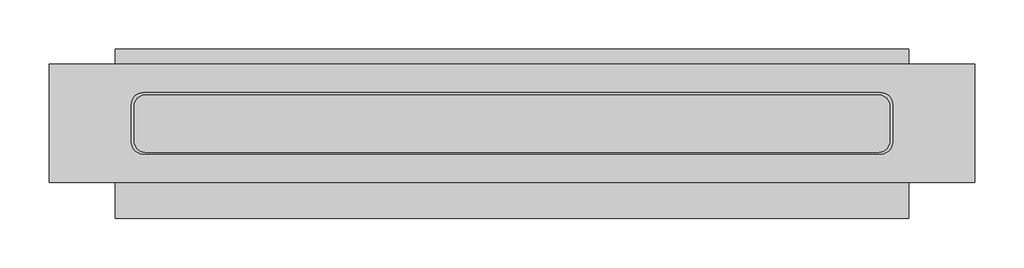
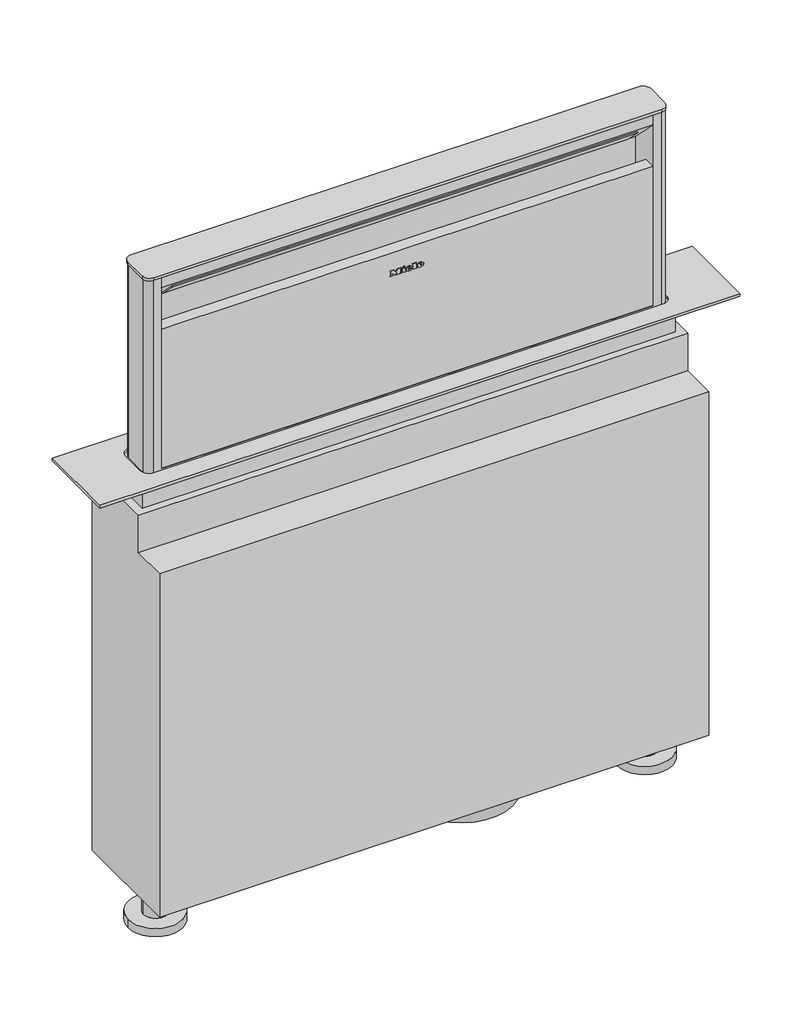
# Not in any storey: 1 proxy.
"""IFC4 building model written with IfcOpenShell, lengths in millimetres."""

import ifcopenshell
import ifcopenshell.guid

model = None  # the IFC model being written
_history = None  # IfcOwnerHistory: only IFC2X3 demands one
_inside = {}  # id of a spatial element -> (the spatial element, [elements in it])
_under = {}  # id of a project, library or spatial element -> (it, [spatial elements below it])
_declared = {}  # id of a project -> (the project, [libraries it declares])
_typed = {}  # id of a type object -> (the type object, [elements of that type])
_made_of = {}  # id of a material, layer set ... -> (it, [elements and type objects made of it])


def new_model(schema):
    """Start an empty IFC model of exactly this schema.

    Asked for "IFC4X3", IfcOpenShell would pick the latest addendum, in which some entities
    have other attributes; the version numbers below select the first issue.
    IFC2X3 requires an IfcOwnerHistory on every rooted entity: one is made here for all.
    """
    global model, _history
    if schema == "IFC4X3":
        model = ifcopenshell.file(schema_version=(4, 3, 0, 0))
    else:
        model = ifcopenshell.file(schema=schema)
    _inside.clear()
    _under.clear()
    _declared.clear()
    _typed.clear()
    _made_of.clear()
    _history = None
    if model.schema == "IFC2X3":
        org = make("IfcOrganization", Name="unknown")
        user = make(
            "IfcPersonAndOrganization",
            ThePerson=make("IfcPerson", FamilyName="unknown"),
            TheOrganization=org,
        )
        app = make(
            "IfcApplication",
            ApplicationDeveloper=org,
            Version="unknown",
            ApplicationFullName="unknown",
            ApplicationIdentifier="unknown",
        )
        _history = make(
            "IfcOwnerHistory",
            OwningUser=user,
            OwningApplication=app,
            ChangeAction="ADDED",
            CreationDate=0,
        )
    return model


def make(cls, **values):
    """One entity of the class cls with the attributes given. An attribute that is None is left unset."""
    return model.create_entity(
        cls, **{name: value for name, value in values.items() if value is not None}
    )


def rooted(cls, **values):
    """An entity with a GlobalId (a new one), such as an element, a storey or a relation."""
    return make(cls, GlobalId=ifcopenshell.guid.new(), OwnerHistory=_history, **values)


def si_unit(unit_type, name, prefix=None):
    """IfcSIUnit, for example si_unit("LENGTHUNIT", "METRE", prefix="MILLI")."""
    return make("IfcSIUnit", UnitType=unit_type, Prefix=prefix, Name=name)


def assignment(units):
    """IfcUnitAssignment: the units of a project."""
    return None if units is None else make("IfcUnitAssignment", Units=units)


def point(xyz):
    """IfcCartesianPoint."""
    return None if xyz is None else make("IfcCartesianPoint", Coordinates=xyz)


def direction(xyz):
    """IfcDirection."""
    return None if xyz is None else make("IfcDirection", DirectionRatios=xyz)


def frame(location, z_axis=None, x_axis=None):
    """IfcAxis2Placement3D, a coordinate frame: its origin and axes. An axis left out is left unset."""
    return make(
        "IfcAxis2Placement3D",
        Location=point(location),
        Axis=direction(z_axis),
        RefDirection=direction(x_axis),
    )


def frame_2d(location, x_axis=None):
    """IfcAxis2Placement2D, a coordinate frame in the plane: its origin and x axis."""
    return make(
        "IfcAxis2Placement2D", Location=point(location), RefDirection=direction(x_axis)
    )


def origin():
    """The frame at (0, 0, 0) with its axes left unset."""
    return frame((0.0, 0.0, 0.0))


def origin_with_axes():
    """The frame at (0, 0, 0) with the z axis (0, 0, 1) and the x axis (1, 0, 0) written out."""
    return frame((0.0, 0.0, 0.0), z_axis=(0.0, 0.0, 1.0), x_axis=(1.0, 0.0, 0.0))


def place(relative_to, where):
    """IfcLocalPlacement: puts the frame where relative to a parent placement (None: the world)."""
    return make(
        "IfcLocalPlacement", PlacementRelTo=relative_to, RelativePlacement=where
    )


def context(
    kind, dimensions, precision=None, world=None, true_north=None, identifier=None
):
    """IfcGeometricRepresentationContext, for example the 3D "Model" context."""
    return make(
        "IfcGeometricRepresentationContext",
        ContextIdentifier=identifier,
        ContextType=kind,
        CoordinateSpaceDimension=dimensions,
        Precision=precision,
        WorldCoordinateSystem=world,
        TrueNorth=true_north,
    )


def project(units=None, contexts=None):
    """IfcProject with its units and contexts."""
    return rooted(
        "IfcProject",
        Name="project",
        RepresentationContexts=contexts,
        UnitsInContext=assignment(units),
    )


def spatial(cls, under=None, at=None, **own):
    """A site, building, storey or space (cls), placed at a placement, below another one or the project."""
    s = rooted(cls, ObjectPlacement=at, **own)
    if under is not None:
        _under.setdefault(under.id(), (under, []))[1].append(s)
    return s


def polyline(points):
    """IfcPolyline through the points."""
    return make("IfcPolyline", Points=[point(p) for p in points])


def circle_curve(where, radius):
    """IfcCircle in the frame where."""
    return make("IfcCircle", Position=where, Radius=radius)


def ellipse_curve(where, semi_axis1, semi_axis2):
    """IfcEllipse in the frame where."""
    return make(
        "IfcEllipse", Position=where, SemiAxis1=semi_axis1, SemiAxis2=semi_axis2
    )


def trimmed(basis, trim1, trim2, sense, master):
    """IfcTrimmedCurve: the piece of a basis curve between two trims."""
    return make(
        "IfcTrimmedCurve",
        BasisCurve=basis,
        Trim1=trim1,
        Trim2=trim2,
        SenseAgreement=sense,
        MasterRepresentation=master,
    )


def segment(curve, same_sense, transition):
    """IfcCompositeCurveSegment."""
    return make(
        "IfcCompositeCurveSegment",
        Transition=transition,
        SameSense=same_sense,
        ParentCurve=curve,
    )


def composite_curve(segments, self_intersect=None):
    """IfcCompositeCurve: segments joined end to end."""
    return make("IfcCompositeCurve", Segments=segments, SelfIntersect=self_intersect)


def outline(outer, holes=None, kind="AREA"):
    """IfcArbitraryClosedProfileDef: a profile drawn as a closed curve; with holes, ...WithVoids."""
    if holes is None:
        return make("IfcArbitraryClosedProfileDef", ProfileType=kind, OuterCurve=outer)
    return make(
        "IfcArbitraryProfileDefWithVoids",
        ProfileType=kind,
        OuterCurve=outer,
        InnerCurves=holes,
    )


def extrude(swept, where, along, depth):
    """IfcExtrudedAreaSolid: the profile swept, set in the frame where, extruded along a direction by depth."""
    return make(
        "IfcExtrudedAreaSolid",
        SweptArea=swept,
        Position=where,
        ExtrudedDirection=direction(along),
        Depth=depth,
    )


def faces_of(points, faces, orient=None, outer=None):
    """IfcFace entities. A face is a list of loops; a loop is a list of indices into points, from 0.

    orient and outer hold one flag for each loop. By default every Orientation is true, the
    first loop of a face is its IfcFaceOuterBound and the others are IfcFaceBound.
    """
    made = []
    for i, loops in enumerate(faces):
        bounds = []
        for j, loop in enumerate(loops):
            is_outer = j == 0 if outer is None else outer[i][j]
            bounds.append(
                make(
                    "IfcFaceOuterBound" if is_outer else "IfcFaceBound",
                    Bound=make("IfcPolyLoop", Polygon=[points[k] for k in loop]),
                    Orientation=True if orient is None else orient[i][j],
                )
            )
        made.append(make("IfcFace", Bounds=bounds))
    return made


def faceted_brep(points, faces, orient=None, outer=None, voids=None):
    """IfcFacetedBrep: a solid bounded by flat faces; with voids (closed shells), ...WithVoids."""
    shared = [point(p) for p in points]
    hull = make("IfcClosedShell", CfsFaces=faces_of(shared, faces, orient, outer))
    if voids is None:
        return make("IfcFacetedBrep", Outer=hull)
    return make(
        "IfcFacetedBrepWithVoids",
        Outer=hull,
        Voids=[
            make(cls, CfsFaces=faces_of(shared, fs, o, b)) for cls, fs, o, b in voids
        ],
    )


def shape(context_of_items, identifier, shape_type, items):
    """IfcShapeRepresentation: the items that make up one representation, for example the "Body"."""
    return make(
        "IfcShapeRepresentation",
        ContextOfItems=context_of_items,
        RepresentationIdentifier=identifier,
        RepresentationType=shape_type,
        Items=items,
    )


def source(mapping_origin, context_of_items, identifier, shape_type, items):
    """IfcRepresentationMap: a shape defined once, which mapped items show again and again."""
    return make(
        "IfcRepresentationMap",
        MappingOrigin=mapping_origin,
        MappedRepresentation=shape(context_of_items, identifier, shape_type, items),
    )


def transform(
    local_origin,
    x_axis=None,
    y_axis=None,
    z_axis=None,
    scale=None,
    scale2=None,
    scale3=None,
    uniform=True,
):
    """IfcCartesianTransformationOperator3D, or its non-uniform kind. x_axis, y_axis, z_axis: its Axis1, 2, 3."""
    if uniform:
        return make(
            "IfcCartesianTransformationOperator3D",
            Axis1=direction(x_axis),
            Axis2=direction(y_axis),
            LocalOrigin=point(local_origin),
            Scale=scale,
            Axis3=direction(z_axis),
        )
    return make(
        "IfcCartesianTransformationOperator3DnonUniform",
        Axis1=direction(x_axis),
        Axis2=direction(y_axis),
        LocalOrigin=point(local_origin),
        Scale=scale,
        Axis3=direction(z_axis),
        Scale2=scale2,
        Scale3=scale3,
    )


def mapped(mapping_source, mapping_target):
    """IfcMappedItem: shows the shape of a source again, moved by a transform."""
    return make(
        "IfcMappedItem", MappingSource=mapping_source, MappingTarget=mapping_target
    )


def made_of(thing, what):
    """Note that an element or type object is made of a material, layer set ...; save() writes the relation."""
    if what is not None:
        _made_of.setdefault(what.id(), (what, []))[1].append(thing)
    return thing


def element(
    cls,
    number,
    at=None,
    inside=None,
    cuts=None,
    type_object=None,
    material=None,
    context=None,
    identifier="Body",
    shape_type=None,
    held_by="IfcProductDefinitionShape",
    body=None,
    shapes=None,
    **own,
):
    """One element of the class cls, such as IfcWall. Its Tag is "e" and its number.

    at: its placement. inside: the storey or other place that contains it. cuts: it is an
    opening in that element (IfcRelVoidsElement). A single representation is given by context,
    identifier, shape_type and body (its items); several are given by shapes. held_by: the class
    of the entity that holds the representations. save() writes the other relations.
    """
    e = rooted(cls, Tag="e%d" % number, ObjectPlacement=at, **own)
    if body is not None:
        shapes = [shape(context, identifier, shape_type, body)]
    if shapes is not None:
        e.Representation = make(held_by, Representations=shapes)
    if inside is not None:
        _inside.setdefault(inside.id(), (inside, []))[1].append(e)
    if cuts is not None:
        rooted(
            "IfcRelVoidsElement", RelatingBuildingElement=cuts, RelatedOpeningElement=e
        )
    if type_object is not None:
        _typed.setdefault(type_object.id(), (type_object, []))[1].append(e)
    return made_of(e, material)


def aggregate(whole, parts):
    """IfcRelAggregates: a whole, such as a stair, and the parts it consists of."""
    return rooted("IfcRelAggregates", RelatingObject=whole, RelatedObjects=parts)


def save(model, path):
    """Write the relations noted so far, then the file.

    IfcRelAggregates (storeys below a building ...), IfcRelContainedInSpatialStructure (elements
    in a storey), IfcRelDefinesByType, IfcRelAssociatesMaterial and IfcRelDeclares: one each for
    every whole, place, type object, material and project.
    """
    for whole, parts in _under.values():
        aggregate(whole, parts)
    for where, things in _inside.values():
        rooted(
            "IfcRelContainedInSpatialStructure",
            RelatedElements=things,
            RelatingStructure=where,
        )
    for kind, things in _typed.values():
        rooted("IfcRelDefinesByType", RelatedObjects=things, RelatingType=kind)
    for what, things in _made_of.values():
        rooted("IfcRelAssociatesMaterial", RelatedObjects=things, RelatingMaterial=what)
    for by, libraries in _declared.values():
        rooted("IfcRelDeclares", RelatingContext=by, RelatedDefinitions=libraries)
    model.write(path)


def plane_surface(at):
    """IfcPlane: the flat surface through the origin of the frame at, square to its z axis."""
    return make("IfcPlane", Position=at)


def cylinder_surface(at, radius):
    """IfcCylindricalSurface: all points at the distance radius from the z axis of the frame at."""
    return make("IfcCylindricalSurface", Position=at, Radius=radius)


def revolved_surface(curve, axis_point, axis_direction):
    """IfcSurfaceOfRevolution: the curve turned about the line through axis_point along axis_direction."""
    return make(
        "IfcSurfaceOfRevolution",
        SweptCurve=make("IfcArbitraryOpenProfileDef", ProfileType="CURVE", Curve=curve),
        AxisPosition=make("IfcAxis1Placement", Location=point(axis_point), Axis=direction(axis_direction)),
    )


def extruded_surface(curve, direction_of_extrusion, depth):
    """IfcSurfaceOfLinearExtrusion: the curve pushed along a direction by depth."""
    return make(
        "IfcSurfaceOfLinearExtrusion",
        SweptCurve=make("IfcArbitraryOpenProfileDef", ProfileType="CURVE", Curve=curve),
        ExtrudedDirection=direction(direction_of_extrusion),
        Depth=depth,
    )


def advanced_brep(points, edges, surfaces, faces):
    """IfcAdvancedBrep: a solid bounded by faces that lie on surfaces and meet in shared edges.

    An edge is (start, end): straight between two places in points (the first is 0);
    or (start, end, curve); or (start, end, curve, False) where it runs against its curve.
    A face is (place in surfaces, loops), or (place, loops, False) where it looks against
    its surface's normal. A loop lists edges by number (the first is 1), with a minus sign
    where the edge is run from its end to its start. The first loop is the outer one.
    """
    corners = [point(p) for p in points]
    vertices = [make("IfcVertexPoint", VertexGeometry=c) for c in corners]
    made = []
    for start, end, *more in edges:
        made.append(
            make(
                "IfcEdgeCurve",
                EdgeStart=vertices[start],
                EdgeEnd=vertices[end],
                EdgeGeometry=more[0] if more else make("IfcPolyline", Points=[corners[start], corners[end]]),
                SameSense=more[1] if len(more) > 1 else True,
            )
        )
    hull = []
    for where, loops, *sense in faces:
        bounds = []
        for j, loop in enumerate(loops):
            ring = [make("IfcOrientedEdge", EdgeElement=made[abs(k) - 1], Orientation=k > 0) for k in loop]
            bounds.append(
                make(
                    "IfcFaceOuterBound" if j == 0 else "IfcFaceBound",
                    Bound=make("IfcEdgeLoop", EdgeList=ring),
                    Orientation=True,
                )
            )
        hull.append(make("IfcAdvancedFace", Bounds=bounds, FaceSurface=surfaces[where], SameSense=sense[0] if sense else True))
    return make("IfcAdvancedBrep", Outer=make("IfcClosedShell", CfsFaces=hull))


def specialty_equipment_d9378c4a(model_context):
    return source(origin(), model_context, "Body", "SolidModel", [
        extrude(outline(polyline([(190.696, -25.0), (190.696, -24.032), (185.344, -24.032), (185.344, -25.0), (184.0, -25.0), (184.0, -21.48), (185.344, -21.48), (185.344, -22.44), (188.7471247, -22.44), (184.0, -18.864), (188.8152223, -15.272), (185.344, -15.272), (185.344, -16.256), (184.0, -16.256), (184.0, -9.872), (185.344, -9.872), (185.344, -10.888), (190.696, -10.888), (190.696, -9.872), (192.0, -9.872), (192.0, -14.744), (189.0, -17.08), (192.0, -19.424), (192.0, -25.0), (190.696, -25.0)])), frame((0.0, -104.0, 0.0), z_axis=(0.0, 1.0, 0.0), x_axis=(0.0, 0.0, 1.0)), (0.0, 0.0, 1.0), 1.0),
        extrude(outline(polyline([(190.696, 7.464), (190.696, 8.424), (185.344, 8.424), (185.344, 7.464), (184.0, 7.464), (184.0, 13.952), (185.344, 13.952), (185.344, 12.968), (192.0, 12.968), (192.0, 7.464), (190.696, 7.464)])), frame((0.0, -104.0, 0.0), z_axis=(0.0, 1.0, 0.0), x_axis=(0.0, 0.0, 1.0)), (0.0, 0.0, 1.0), 1.0),
        extrude(outline(polyline([(191.528, -7.08), (190.232, -6.472), (191.496, -3.76), (192.792, -4.36), (191.528, -7.08)])), frame((0.0, -104.0, 0.0), z_axis=(0.0, 1.0, 0.0), x_axis=(0.0, 0.0, 1.0)), (0.0, 0.0, 1.0), 1.0),
        extrude(outline(polyline([(190.056, -9.056), (188.624, -9.056), (188.624, -8.104), (185.344, -8.104), (185.344, -9.056), (184.0, -9.056), (184.0, -2.744), (185.344, -2.744), (185.344, -3.672), (190.056, -3.672), (190.056, -9.056)])), frame((0.0, -104.0, 0.0), z_axis=(0.0, 1.0, 0.0), x_axis=(0.0, 0.0, 1.0)), (0.0, 0.0, 1.0), 1.0),
        advanced_brep(
        [(1.664, -104.0, 185.896), (1.664, -104.0, 186.704), (7.016, -104.0, 186.704), (-2.296, -104.0, 186.704), (-0.096, -104.0, 184.0), (6.88, -104.0, 185.896), (4.464, -104.0, 185.896), (2.56, -104.0, 185.0), (1.664, -104.0, 187.728), (1.664, -104.0, 188.6), (3.032, -104.0, 188.6), (3.032, -104.0, 187.728), (1.664, -103.0, 185.896), (2.56, -103.0, 185.0), (4.464, -103.0, 185.896), (6.88, -103.0, 185.896), (-0.096, -103.0, 184.0), (-2.296, -103.0, 186.704), (7.016, -103.0, 186.704), (1.664, -103.0, 186.704), (1.664, -103.0, 187.728), (3.032, -103.0, 187.728), (3.032, -103.0, 188.6), (1.664, -103.0, 188.6)],
        [
            (0, 1),
            (1, 2),
            (2, 3, ellipse_curve(frame((2.36, -104.0, 186.704), z_axis=(0.0, -1.0, 0.0), x_axis=(-1.0, 0.0, 0.0)), 4.656, 3.848)),
            (3, 4, circle_curve(frame((0.8000436, -104.0, 186.976), z_axis=(0.0, -1.0, 0.0), x_axis=(0.0, 0.0, -1.0)), 3.1079688)),
            (4, 5, circle_curve(frame((2.2667936, -104.0, 189.088), z_axis=(0.0, -1.0, 0.0), x_axis=(0.0, 0.0, -1.0)), 5.6098607)),
            (5, 6),
            (6, 7, circle_curve(frame((2.9510588, -104.0, 186.64), z_axis=(0.0, 1.0, 0.0), x_axis=(0.0, 0.0, -1.0)), 1.6859795)),
            (7, 0, circle_curve(frame((2.56, -104.0, 185.896), z_axis=(0.0, 1.0, 0.0), x_axis=(0.0, 0.0, -1.0)), 0.896)),
            (8, 9),
            (9, 10, circle_curve(frame((2.348, -104.0, 188.6), z_axis=(0.0, 1.0, 0.0), x_axis=(0.0, 0.0, -1.0)), 0.684)),
            (10, 11),
            (11, 8),
            (12, 13, circle_curve(frame((2.56, -103.0, 185.896), z_axis=(0.0, -1.0, 0.0), x_axis=(0.0, 0.0, -1.0)), 0.896)),
            (13, 14, circle_curve(frame((2.9510588, -103.0, 186.64), z_axis=(0.0, -1.0, 0.0), x_axis=(0.0, 0.0, -1.0)), 1.6859795)),
            (14, 15),
            (15, 16, circle_curve(frame((2.2667936, -103.0, 189.088), z_axis=(0.0, 1.0, 0.0), x_axis=(0.0, 0.0, -1.0)), 5.6098607)),
            (16, 17, circle_curve(frame((0.8000436, -103.0, 186.976), z_axis=(0.0, 1.0, 0.0), x_axis=(0.0, 0.0, -1.0)), 3.1079688)),
            (17, 18, ellipse_curve(frame((2.36, -103.0, 186.704), z_axis=(0.0, 1.0, 0.0), x_axis=(-1.0, 0.0, 0.0)), 4.656, 3.848)),
            (18, 19),
            (19, 12),
            (20, 21),
            (21, 22),
            (22, 23, circle_curve(frame((2.348, -103.0, 188.6), z_axis=(0.0, -1.0, 0.0), x_axis=(0.0, 0.0, -1.0)), 0.684)),
            (23, 20),
            (0, 12),
            (19, 1),
            (18, 2),
            (5, 15),
            (14, 6),
            (17, 3),
            (13, 7),
            (16, 4),
            (8, 20),
            (23, 9),
            (22, 10),
            (21, 11),
        ],
        [
            plane_surface(frame((1.664, -104.0, 186.704), z_axis=(0.0, -1.0, 0.0), x_axis=(0.0, 0.0, 1.0))),
            plane_surface(frame((1.664, -103.0, 186.704), z_axis=(0.0, 1.0, 0.0), x_axis=(0.0, 0.0, -1.0))),
            plane_surface(frame((1.664, -104.0, 185.896), z_axis=(1.0, 0.0, 0.0), x_axis=(0.0, 1.0, 0.0))),
            plane_surface(frame((1.664, -104.0, 186.704), z_axis=(0.0, 0.0, -1.0), x_axis=(0.0, 1.0, 0.0))),
            plane_surface(frame((6.88, -104.0, 185.896), z_axis=(0.0, 0.0, 1.0), x_axis=(0.0, 1.0, 0.0))),
            extruded_surface(trimmed(ellipse_curve(frame((2.36, -102.0, 186.704), z_axis=(0.0, -1.0, 0.0), x_axis=(-1.0, 0.0, 0.0)), 4.656, 3.848), [point((7.016, -102.0, 186.704))], [point((-2.296, -102.0, 186.704))], True, "CARTESIAN"), (0.0, -1.0, 0.0), 1.0),
            revolved_surface(polyline([(2.9510588, -103.0, 184.95402049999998), (2.9510588, -104.0, 184.95402049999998)]), (2.9510588, -103.0, 186.64), (0.0, 1.0, 0.0)),
            revolved_surface(polyline([(2.56, -103.0, 185.0), (2.56, -104.0, 185.0)]), (2.56, -103.0, 185.896), (0.0, 1.0, 0.0)),
            cylinder_surface(frame((0.8000436, -103.0, 186.976), z_axis=(0.0, -1.0, 0.0), x_axis=(0.0, 0.0, -1.0)), 3.1079688),
            cylinder_surface(frame((2.2667936, -103.0, 189.088), z_axis=(0.0, -1.0, 0.0), x_axis=(0.0, 0.0, -1.0)), 5.6098607),
            plane_surface(frame((1.664, -104.0, 187.728), z_axis=(1.0, 0.0, 0.0), x_axis=(0.0, 1.0, 0.0))),
            revolved_surface(polyline([(2.348, -103.0, 187.916), (2.348, -104.0, 187.916)]), (2.348, -103.0, 188.6), (0.0, 1.0, 0.0)),
            plane_surface(frame((3.032, -104.0, 188.6), z_axis=(-1.0, 0.0, 0.0), x_axis=(0.0, 1.0, 0.0))),
            plane_surface(frame((3.032, -104.0, 187.728), z_axis=(0.0, 0.0, 1.0), x_axis=(0.0, 1.0, 0.0))),
        ],
        [
            (0, [[1, 2, 3, 4, 5, 6, 7, 8], [9, 10, 11, 12]]),
            (1, [[13, 14, 15, 16, 17, 18, 19, 20], [21, 22, 23, 24]]),
            (2, [[-1, 25, -20, 26]]),
            (3, [[-2, -26, -19, 27]]),
            (4, [[-6, 28, -15, 29]]),
            (5, [[-3, -27, -18, 30]]),
            (6, [[-7, -29, -14, 31]]),
            (7, [[-8, -31, -13, -25]]),
            (8, [[-4, -30, -17, 32]]),
            (9, [[-5, -32, -16, -28]]),
            (10, [[-9, 33, -24, 34]]),
            (11, [[-10, -34, -23, 35]]),
            (12, [[-11, -35, -22, 36]]),
            (13, [[-12, -36, -21, -33]]),
        ],
    ),
        advanced_brep(
        [(18.36, -104.0, 185.896), (18.36, -104.0, 186.704), (23.712, -104.0, 186.704), (14.4, -104.0, 186.704), (16.6, -104.0, 184.0), (23.576, -104.0, 185.896), (21.16, -104.0, 185.896), (19.256, -104.0, 185.0), (18.36, -104.0, 187.728), (18.36, -104.0, 188.6), (19.728, -104.0, 188.6), (19.728, -104.0, 187.728), (18.36, -103.0, 185.896), (19.256, -103.0, 185.0), (21.16, -103.0, 185.896), (23.576, -103.0, 185.896), (16.6, -103.0, 184.0), (14.4, -103.0, 186.704), (23.712, -103.0, 186.704), (18.36, -103.0, 186.704), (18.36, -103.0, 187.728), (19.728, -103.0, 187.728), (19.728, -103.0, 188.6), (18.36, -103.0, 188.6)],
        [
            (0, 1),
            (1, 2),
            (2, 3, ellipse_curve(frame((19.056, -104.0, 186.704), z_axis=(0.0, -1.0, 0.0), x_axis=(-1.0, 0.0, 0.0)), 4.656, 3.848)),
            (3, 4, circle_curve(frame((17.4960436, -104.0, 186.976), z_axis=(0.0, -1.0, 0.0), x_axis=(0.0, 0.0, -1.0)), 3.1079688)),
            (4, 5, circle_curve(frame((18.9627936, -104.0, 189.088), z_axis=(0.0, -1.0, 0.0), x_axis=(0.0, 0.0, -1.0)), 5.6098607)),
            (5, 6),
            (6, 7, circle_curve(frame((19.6470588, -104.0, 186.64), z_axis=(0.0, 1.0, 0.0), x_axis=(0.0, 0.0, -1.0)), 1.6859795)),
            (7, 0, circle_curve(frame((19.256, -104.0, 185.896), z_axis=(0.0, 1.0, 0.0), x_axis=(0.0, 0.0, -1.0)), 0.896)),
            (8, 9),
            (9, 10, circle_curve(frame((19.044, -104.0, 188.6), z_axis=(0.0, 1.0, 0.0), x_axis=(0.0, 0.0, -1.0)), 0.684)),
            (10, 11),
            (11, 8),
            (12, 13, circle_curve(frame((19.256, -103.0, 185.896), z_axis=(0.0, -1.0, 0.0), x_axis=(0.0, 0.0, -1.0)), 0.896)),
            (13, 14, circle_curve(frame((19.6470588, -103.0, 186.64), z_axis=(0.0, -1.0, 0.0), x_axis=(0.0, 0.0, -1.0)), 1.6859795)),
            (14, 15),
            (15, 16, circle_curve(frame((18.9627936, -103.0, 189.088), z_axis=(0.0, 1.0, 0.0), x_axis=(0.0, 0.0, -1.0)), 5.6098607)),
            (16, 17, circle_curve(frame((17.4960436, -103.0, 186.976), z_axis=(0.0, 1.0, 0.0), x_axis=(0.0, 0.0, -1.0)), 3.1079688)),
            (17, 18, ellipse_curve(frame((19.056, -103.0, 186.704), z_axis=(0.0, 1.0, 0.0), x_axis=(-1.0, 0.0, 0.0)), 4.656, 3.848)),
            (18, 19),
            (19, 12),
            (20, 21),
            (21, 22),
            (22, 23, circle_curve(frame((19.044, -103.0, 188.6), z_axis=(0.0, -1.0, 0.0), x_axis=(0.0, 0.0, -1.0)), 0.684)),
            (23, 20),
            (0, 12),
            (19, 1),
            (18, 2),
            (5, 15),
            (14, 6),
            (17, 3),
            (13, 7),
            (16, 4),
            (8, 20),
            (23, 9),
            (22, 10),
            (21, 11),
        ],
        [
            plane_surface(frame((18.36, -104.0, 186.704), z_axis=(0.0, -1.0, 0.0), x_axis=(0.0, 0.0, 1.0))),
            plane_surface(frame((18.36, -103.0, 186.704), z_axis=(0.0, 1.0, 0.0), x_axis=(0.0, 0.0, -1.0))),
            plane_surface(frame((18.36, -104.0, 185.896), z_axis=(1.0, 0.0, 0.0), x_axis=(0.0, 1.0, 0.0))),
            plane_surface(frame((18.36, -104.0, 186.704), z_axis=(0.0, 0.0, -1.0), x_axis=(0.0, 1.0, 0.0))),
            plane_surface(frame((23.576, -104.0, 185.896), z_axis=(0.0, 0.0, 1.0), x_axis=(0.0, 1.0, 0.0))),
            extruded_surface(trimmed(ellipse_curve(frame((19.056, -102.0, 186.704), z_axis=(0.0, -1.0, 0.0), x_axis=(-1.0, 0.0, 0.0)), 4.656, 3.848), [point((23.712, -102.0, 186.704))], [point((14.4, -102.0, 186.704))], True, "CARTESIAN"), (0.0, -1.0, 0.0), 1.0),
            revolved_surface(polyline([(19.6470588, -103.0, 184.95402049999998), (19.6470588, -104.0, 184.95402049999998)]), (19.6470588, -103.0, 186.64), (0.0, 1.0, 0.0)),
            revolved_surface(polyline([(19.256, -103.0, 185.0), (19.256, -104.0, 185.0)]), (19.256, -103.0, 185.896), (0.0, 1.0, 0.0)),
            cylinder_surface(frame((17.4960436, -103.0, 186.976), z_axis=(0.0, -1.0, 0.0), x_axis=(0.0, 0.0, -1.0)), 3.1079688),
            cylinder_surface(frame((18.9627936, -103.0, 189.088), z_axis=(0.0, -1.0, 0.0), x_axis=(0.0, 0.0, -1.0)), 5.6098607),
            plane_surface(frame((18.36, -104.0, 187.728), z_axis=(1.0, 0.0, 0.0), x_axis=(0.0, 1.0, 0.0))),
            revolved_surface(polyline([(19.044, -103.0, 187.916), (19.044, -104.0, 187.916)]), (19.044, -103.0, 188.6), (0.0, 1.0, 0.0)),
            plane_surface(frame((19.728, -104.0, 188.6), z_axis=(-1.0, 0.0, 0.0), x_axis=(0.0, 1.0, 0.0))),
            plane_surface(frame((19.728, -104.0, 187.728), z_axis=(0.0, 0.0, 1.0), x_axis=(0.0, 1.0, 0.0))),
        ],
        [
            (0, [[1, 2, 3, 4, 5, 6, 7, 8], [9, 10, 11, 12]]),
            (1, [[13, 14, 15, 16, 17, 18, 19, 20], [21, 22, 23, 24]]),
            (2, [[-1, 25, -20, 26]]),
            (3, [[-2, -26, -19, 27]]),
            (4, [[-6, 28, -15, 29]]),
            (5, [[-3, -27, -18, 30]]),
            (6, [[-7, -29, -14, 31]]),
            (7, [[-8, -31, -13, -25]]),
            (8, [[-4, -30, -17, 32]]),
            (9, [[-5, -32, -16, -28]]),
            (10, [[-9, 33, -24, 34]]),
            (11, [[-10, -34, -23, 35]]),
            (12, [[-11, -35, -22, 36]]),
            (13, [[-12, -36, -21, -33]]),
        ],
    ),
        extrude(outline(composite_curve([segment(trimmed(circle_curve(frame_2d((89.2, -85.8647958)), 75.0), [point((14.2, -85.8647958))], [point((164.2, -85.8647958))], False, "CARTESIAN"), True, "CONTINUOUS"), segment(trimmed(circle_curve(frame_2d((89.2, -85.8647958)), 75.0), [point((164.2, -85.8647958))], [point((14.2, -85.8647958))], False, "CARTESIAN"), True, "CONTINUOUS")], self_intersect=False)), frame((0.0, 0.0, -659.0), z_axis=(0.0, 0.0, 1.0), x_axis=(1.0, 0.0, 0.0)), (0.0, 0.0, 1.0), 25.0),
        extrude(outline(composite_curve([segment(trimmed(circle_curve(frame_2d((371.1814118, -57.4008786)), 11.0228003), [point((371.1814118, -46.3780783))], [point((382.2042121, -57.4008786))], False, "CARTESIAN"), True, "CONTINUOUS"), segment(polyline([(382.2042121, -57.4008786), (382.2042121, -93.3997352)]), True, "CONTINUOUS"), segment(trimmed(circle_curve(frame_2d((371.225869, -93.3997352)), 10.9783431), [point((382.2042121, -93.3997352))], [point((371.225869, -104.3780783))], False, "CARTESIAN"), True, "CONTINUOUS"), segment(polyline([(371.225869, -104.3780783), (-371.2377642, -104.3780783)]), True, "CONTINUOUS"), segment(trimmed(circle_curve(frame_2d((-371.2377642, -93.4116304)), 10.9664479), [point((-371.2377642, -104.3780783))], [point((-382.2042121, -93.4116304))], False, "CARTESIAN"), True, "CONTINUOUS"), segment(polyline([(-382.2042121, -93.4116304), (-382.2042121, -57.3636674)]), True, "CONTINUOUS"), segment(trimmed(circle_curve(frame_2d((-371.218623, -57.3636674)), 10.9855891), [point((-382.2042121, -57.3636674))], [point((-371.218623, -46.3780783))], False, "CARTESIAN"), True, "CONTINUOUS"), segment(polyline([(-371.218623, -46.3780783), (371.1814118, -46.3780783)]), True, "CONTINUOUS")], self_intersect=False)), frame((0.0, 0.0, 299.5725648), z_axis=(0.0, 0.0, 1.0), x_axis=(1.0, 0.0, 0.0)), (0.0, 0.0, 1.0), 4.4274352),
        advanced_brep(
        [(371.2042121, -47.3780783, 299.5725648), (-371.2042121, -47.3780783, 299.5725648), (-381.2042121, -57.3780783, 299.5725648), (-381.2042121, -93.3780783, 299.5725648), (-371.2042121, -103.3780783, 299.5725648), (-359.9100986, -103.3780783, 299.5725648), (-359.9100986, -103.1609893, 299.5725648), (359.9100986, -103.1609893, 299.5725648), (359.9100986, -103.3780783, 299.5725648), (371.2042121, -103.3780783, 299.5725648), (381.2042121, -93.3780783, 299.5725648), (381.2042121, -57.3780783, 299.5725648), (371.2042121, -47.3780783, 0.0), (381.2042121, -57.3780783, 0.0), (381.2042121, -93.3780783, 0.0), (371.2042121, -103.3780783, 0.0), (-371.2042121, -103.3780783, 0.0), (-381.2042121, -93.3780783, 0.0), (-381.2042121, -57.3780783, 0.0), (-371.2042121, -47.3780783, 0.0), (359.9100986, -103.3780783, 4.0), (-359.9100986, -103.3780783, 4.0), (359.9100986, -58.0, 237.9815659), (359.9100986, -58.0, 147.0), (359.9100986, -79.1055209, 147.0), (359.9100986, -85.0, 219.0), (359.9100986, -103.1609893, 219.0), (359.9100986, -103.1609893, 4.0), (359.9100986, -103.1609893, 283.1425552), (-359.9100986, -85.0, 219.0), (-359.9100986, -79.1055209, 147.0), (-359.9100986, -58.0, 147.0), (-359.9100986, -58.0, 237.9815659), (-359.9100986, -103.1609893, 283.1425552), (-359.9100986, -103.1609893, 4.0), (-359.9100986, -103.1609893, 219.0)],
        [
            (0, 1),
            (1, 2, circle_curve(frame((-371.2042121, -57.3780783, 299.5725648), z_axis=(0.0, 0.0, 1.0), x_axis=(1.0, 0.0, 0.0)), 10.0)),
            (2, 3),
            (3, 4, circle_curve(frame((-371.2042121, -93.3780783, 299.5725648), z_axis=(0.0, 0.0, 1.0), x_axis=(1.0, 0.0, 0.0)), 10.0)),
            (4, 5),
            (5, 6),
            (6, 7),
            (7, 8),
            (8, 9),
            (9, 10, circle_curve(frame((371.2042121, -93.3780783, 299.5725648), z_axis=(0.0, 0.0, 1.0), x_axis=(1.0, 0.0, 0.0)), 10.0)),
            (10, 11),
            (11, 0, circle_curve(frame((371.2042121, -57.3780783, 299.5725648), z_axis=(0.0, 0.0, 1.0), x_axis=(1.0, 0.0, 0.0)), 10.0)),
            (12, 13, circle_curve(frame((371.2042121, -57.3780783, 0.0), z_axis=(0.0, 0.0, -1.0), x_axis=(1.0, 0.0, 0.0)), 10.0)),
            (13, 14),
            (14, 15, circle_curve(frame((371.2042121, -93.3780783, 0.0), z_axis=(0.0, 0.0, -1.0), x_axis=(1.0, 0.0, 0.0)), 10.0)),
            (15, 16),
            (16, 17, circle_curve(frame((-371.2042121, -93.3780783, 0.0), z_axis=(0.0, 0.0, -1.0), x_axis=(1.0, 0.0, 0.0)), 10.0)),
            (17, 18),
            (18, 19, circle_curve(frame((-371.2042121, -57.3780783, 0.0), z_axis=(0.0, 0.0, -1.0), x_axis=(1.0, 0.0, 0.0)), 10.0)),
            (19, 12),
            (0, 12),
            (19, 1),
            (2, 18),
            (17, 3),
            (15, 9),
            (8, 20),
            (20, 21),
            (21, 5),
            (4, 16),
            (10, 14),
            (13, 11),
            (22, 23),
            (23, 24),
            (24, 25),
            (25, 26),
            (26, 27),
            (27, 20),
            (7, 28),
            (28, 22),
            (29, 30),
            (30, 31),
            (31, 32),
            (32, 33),
            (33, 6),
            (21, 34),
            (34, 35),
            (35, 29),
            (32, 22),
            (28, 33),
            (25, 29),
            (35, 26),
            (24, 30),
            (23, 31),
            (34, 27),
        ],
        [
            plane_surface(frame((-371.2042121, -47.3780783, 299.5725648), z_axis=(0.0, 0.0, 1.0), x_axis=(-1.0, 0.0, 0.0))),
            plane_surface(frame((-371.2042121, -47.3780783, 0.0), z_axis=(0.0, 0.0, -1.0), x_axis=(1.0, 0.0, 0.0))),
            plane_surface(frame((371.2042121, -47.3780783, 299.5725648), z_axis=(0.0, 1.0, 0.0), x_axis=(0.0, 0.0, -1.0))),
            plane_surface(frame((-381.2042121, -57.3780783, 299.5725648), z_axis=(-1.0, 0.0, 0.0), x_axis=(0.0, 0.0, -1.0))),
            plane_surface(frame((-371.2042121, -103.3780783, 299.5725648), z_axis=(0.0, -1.0, 0.0), x_axis=(0.0, 0.0, -1.0))),
            plane_surface(frame((381.2042121, -93.3780783, 299.5725648), z_axis=(1.0, 0.0, 0.0), x_axis=(0.0, 0.0, -1.0))),
            cylinder_surface(frame((-371.2042121, -57.3780783, 0.0), z_axis=(0.0, 0.0, 1.0), x_axis=(1.0, 0.0, 0.0)), 10.0),
            cylinder_surface(frame((-371.2042121, -93.3780783, 0.0), z_axis=(0.0, 0.0, 1.0), x_axis=(1.0, 0.0, 0.0)), 10.0),
            cylinder_surface(frame((371.2042121, -93.3780783, 0.0), z_axis=(0.0, 0.0, 1.0), x_axis=(1.0, 0.0, 0.0)), 10.0),
            cylinder_surface(frame((371.2042121, -57.3780783, 0.0), z_axis=(0.0, 0.0, 1.0), x_axis=(1.0, 0.0, 0.0)), 10.0),
            plane_surface(frame((359.9100986, -94.4708552, 274.4524211), z_axis=(-1.0, 0.0, 0.0), x_axis=(0.0, -0.7071067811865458, 0.7071067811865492))),
            plane_surface(frame((-359.9100986, -94.4708552, 274.4524211), z_axis=(1.0, 0.0, 0.0), x_axis=(0.0, 0.7071067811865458, -0.7071067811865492))),
            plane_surface(frame((359.9100986, -58.0, 237.9815659), z_axis=(0.0, -0.7071067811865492, -0.7071067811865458), x_axis=(-1.0, 0.0, 0.0))),
            plane_surface(frame((359.9100986, -103.3780783, 219.0), z_axis=(0.0, 0.0, 1.0), x_axis=(-1.0, 0.0, 0.0))),
            plane_surface(frame((359.9100986, -85.0, 219.0), z_axis=(0.0, 0.9966655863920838, 0.08159478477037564), x_axis=(-1.0, 0.0, 0.0))),
            plane_surface(frame((359.9100986, -79.1055209, 147.0), z_axis=(0.0, 0.0, 1.0), x_axis=(-1.0, 0.0, 0.0))),
            plane_surface(frame((359.9100986, -58.0, 147.0), z_axis=(0.0, -1.0, 0.0), x_axis=(-1.0, 0.0, 0.0))),
            plane_surface(frame((268.1830979, -103.1609893, 4.0), z_axis=(0.0, -1.0, 0.0), x_axis=(-1.0, 0.0, 0.0))),
            plane_surface(frame((-359.9100986, -103.3780783, 4.0), z_axis=(0.0, 0.0, 1.0), x_axis=(0.0, 1.0, 0.0))),
        ],
        [
            (0, [[1, 2, 3, 4, 5, 6, 7, 8, 9, 10, 11, 12]]),
            (1, [[13, 14, 15, 16, 17, 18, 19, 20]]),
            (2, [[-1, 21, -20, 22]]),
            (3, [[-3, 23, -18, 24]]),
            (4, [[-16, 25, -9, 26, 27, 28, -5, 29]]),
            (5, [[-11, 30, -14, 31]]),
            (6, [[-2, -22, -19, -23]]),
            (7, [[-4, -24, -17, -29]]),
            (8, [[-10, -25, -15, -30]]),
            (9, [[-12, -31, -13, -21]]),
            (10, [[32, 33, 34, 35, 36, 37, -26, -8, 38, 39]]),
            (11, [[40, 41, 42, 43, 44, -6, -28, 45, 46, 47]]),
            (12, [[48, -39, 49, -43]]),
            (13, [[50, -47, 51, -35]]),
            (14, [[-34, 52, -40, -50]]),
            (15, [[-33, 53, -41, -52]]),
            (16, [[-32, -48, -42, -53]]),
            (17, [[-38, -7, -44, -49]]),
            (17, [[54, -36, -51, -46]]),
            (18, [[-54, -45, -27, -37]]),
        ],
    ),
        faceted_brep([(401.4936189, -32.3, -45.0), (-401.4936189, -32.3, -45.0), (-401.4936189, -117.7, -45.0), (401.4936189, -117.7, -45.0), (-390.0, -43.0, -45.0), (390.0, -43.0, -45.0), (390.0, -107.0, -45.0), (-390.0, -107.0, -45.0), (401.4936189, 0.0, -634.0), (401.4936189, -171.0, -634.0), (-401.4936189, -171.0, -634.0), (-401.4936189, 0.0, -634.0), (-401.4936189, 0.0, -85.0), (401.4936189, 0.0, -85.0), (401.4936189, -171.0, -103.0), (-401.4936189, -171.0, -103.0), (390.0, -43.0, 0.0), (-390.0, -43.0, 0.0), (-390.0, -107.0, 0.0), (390.0, -107.0, 0.0), (-401.4936189, -117.7, -103.0), (-401.4936189, -32.3, -85.0), (401.4936189, -32.3, -85.0), (401.4936189, -117.7, -103.0)], [[[0, 1, 2, 3], [4, 5, 6, 7]], [[8, 9, 10, 11]], [[8, 11, 12, 13]], [[10, 9, 14, 15]], [[16, 17, 18, 19]], [[17, 16, 5, 4]], [[18, 17, 4, 7]], [[19, 18, 7, 6]], [[16, 19, 6, 5]], [[11, 10, 15, 20, 2, 1, 21, 12]], [[9, 8, 13, 22, 0, 3, 23, 14]], [[23, 20, 15, 14]], [[20, 23, 3, 2]], [[22, 21, 1, 0]], [[21, 22, 13, 12]]]),
        extrude(outline(polyline([(468.0, -15.0), (468.0, -135.0), (-468.0, -135.0), (-468.0, -15.0), (468.0, -15.0)]), holes=[composite_curve([segment(polyline([(373.1343386, -44.0), (-373.0956327, -44.0)]), True, "CONTINUOUS"), segment(trimmed(circle_curve(frame_2d((-373.0956327, -56.0)), 12.0), [point((-373.0956327, -44.0))], [point((-385.0956327, -56.0))], True, "CARTESIAN"), True, "CONTINUOUS"), segment(polyline([(-385.0956327, -56.0), (-385.0956327, -94.0)]), True, "CONTINUOUS"), segment(trimmed(circle_curve(frame_2d((-373.0956327, -94.0)), 12.0), [point((-385.0956327, -94.0))], [point((-373.0956327, -106.0))], True, "CARTESIAN"), True, "CONTINUOUS"), segment(polyline([(-373.0956327, -106.0), (373.0753112, -106.0)]), True, "CONTINUOUS"), segment(trimmed(circle_curve(frame_2d((373.0753112, -93.9796784)), 12.0203216), [point((373.0753112, -106.0))], [point((385.0956327, -93.9796784))], True, "CARTESIAN"), True, "CONTINUOUS"), segment(polyline([(385.0956327, -93.9796784), (385.0956327, -55.9612941)]), True, "CONTINUOUS"), segment(trimmed(circle_curve(frame_2d((373.1343386, -55.9612941)), 11.9612941), [point((385.0956327, -55.9612941))], [point((373.1343386, -44.0))], True, "CARTESIAN"), True, "CONTINUOUS")], self_intersect=False)]), origin_with_axes(), (0.0, 0.0, 1.0), 4.0),
        extrude(outline(polyline([(36.0, 0.0), (36.0, -680.0), (0.0, -680.0), (0.0, 0.0), (36.0, 0.0)])), frame((-337.8937642, -94.5300953, 272.3903409), z_axis=(0.0, 0.7071067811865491, 0.707106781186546), x_axis=(0.0, 0.707106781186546, -0.7071067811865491)), (0.0, 0.0, 1.0), 1.5),
        advanced_brep(
        [(317.7840925, -85.0, -704.0), (397.7840925, -85.0, -704.0), (317.7840925, -85.0, -691.0), (397.7840925, -85.0, -691.0), (375.2840925, -85.0, -691.0), (340.2840925, -85.0, -691.0), (340.2840925, -85.0, -634.0), (375.2840925, -85.0, -634.0)],
        [
            (0, 1, circle_curve(frame((357.7840925, -85.0, -704.0), z_axis=(0.0, 0.0, -1.0), x_axis=(1.0, 0.0, 0.0)), 40.0)),
            (1, 0, circle_curve(frame((357.7840925, -85.0, -704.0), z_axis=(0.0, 0.0, -1.0), x_axis=(1.0, 0.0, 0.0)), 40.0)),
            (2, 3, circle_curve(frame((357.7840925, -85.0, -691.0), z_axis=(0.0, 0.0, 1.0), x_axis=(1.0, 0.0, 0.0)), 40.0)),
            (3, 2, circle_curve(frame((357.7840925, -85.0, -691.0), z_axis=(0.0, 0.0, 1.0), x_axis=(1.0, 0.0, 0.0)), 40.0)),
            (4, 5, circle_curve(frame((357.7840925, -85.0, -691.0), z_axis=(0.0, 0.0, -1.0), x_axis=(1.0, 0.0, 0.0)), 17.5)),
            (5, 4, circle_curve(frame((357.7840925, -85.0, -691.0), z_axis=(0.0, 0.0, -1.0), x_axis=(1.0, 0.0, 0.0)), 17.5)),
            (1, 3),
            (2, 0),
            (6, 7, circle_curve(frame((357.7840925, -85.0, -634.0), z_axis=(0.0, 0.0, 1.0), x_axis=(1.0, 0.0, 0.0)), 17.5)),
            (7, 6, circle_curve(frame((357.7840925, -85.0, -634.0), z_axis=(0.0, 0.0, 1.0), x_axis=(1.0, 0.0, 0.0)), 17.5)),
            (6, 5),
            (4, 7),
        ],
        [
            plane_surface(frame((397.7840925, -85.0, -704.0), z_axis=(0.0, 0.0, -1.0), x_axis=(0.0, -1.0, 0.0))),
            plane_surface(frame((397.7840925, -85.0, -691.0), z_axis=(0.0, 0.0, 1.0), x_axis=(0.0, 1.0, 0.0))),
            cylinder_surface(frame((357.7840925, -85.0, -704.0), z_axis=(0.0, 0.0, 1.0), x_axis=(1.0, 0.0, 0.0)), 40.0),
            plane_surface(frame((375.2840925, -85.0, -634.0), z_axis=(0.0, 0.0, 1.0), x_axis=(0.0, 1.0, 0.0))),
            cylinder_surface(frame((357.7840925, -85.0, -704.0), z_axis=(0.0, 0.0, 1.0), x_axis=(1.0, 0.0, 0.0)), 17.5),
        ],
        [
            (0, [[1, 2]]),
            (1, [[3, 4], [5, 6]]),
            (2, [[-2, 7, -3, 8]]),
            (2, [[-1, -8, -4, -7]]),
            (3, [[9, 10]]),
            (4, [[-9, 11, -5, 12]]),
            (4, [[-10, -12, -6, -11]]),
        ],
    ),
        advanced_brep(
        [(-397.7840925, -85.0, -704.0), (-317.7840925, -85.0, -704.0), (-397.7840925, -85.0, -691.0), (-317.7840925, -85.0, -691.0), (-340.2840925, -85.0, -691.0), (-375.2840925, -85.0, -691.0), (-375.2840925, -85.0, -634.0), (-340.2840925, -85.0, -634.0)],
        [
            (0, 1, circle_curve(frame((-357.7840925, -85.0, -704.0), z_axis=(0.0, 0.0, -1.0), x_axis=(1.0, 0.0, 0.0)), 40.0)),
            (1, 0, circle_curve(frame((-357.7840925, -85.0, -704.0), z_axis=(0.0, 0.0, -1.0), x_axis=(1.0, 0.0, 0.0)), 40.0)),
            (2, 3, circle_curve(frame((-357.7840925, -85.0, -691.0), z_axis=(0.0, 0.0, 1.0), x_axis=(1.0, 0.0, 0.0)), 40.0)),
            (3, 2, circle_curve(frame((-357.7840925, -85.0, -691.0), z_axis=(0.0, 0.0, 1.0), x_axis=(1.0, 0.0, 0.0)), 40.0)),
            (4, 5, circle_curve(frame((-357.7840925, -85.0, -691.0), z_axis=(0.0, 0.0, -1.0), x_axis=(1.0, 0.0, 0.0)), 17.5)),
            (5, 4, circle_curve(frame((-357.7840925, -85.0, -691.0), z_axis=(0.0, 0.0, -1.0), x_axis=(1.0, 0.0, 0.0)), 17.5)),
            (1, 3),
            (2, 0),
            (6, 7, circle_curve(frame((-357.7840925, -85.0, -634.0), z_axis=(0.0, 0.0, 1.0), x_axis=(1.0, 0.0, 0.0)), 17.5)),
            (7, 6, circle_curve(frame((-357.7840925, -85.0, -634.0), z_axis=(0.0, 0.0, 1.0), x_axis=(1.0, 0.0, 0.0)), 17.5)),
            (6, 5),
            (4, 7),
        ],
        [
            plane_surface(frame((397.7840925, -85.0, -704.0), z_axis=(0.0, 0.0, -1.0), x_axis=(0.0, -1.0, 0.0))),
            plane_surface(frame((397.7840925, -85.0, -691.0), z_axis=(0.0, 0.0, 1.0), x_axis=(0.0, 1.0, 0.0))),
            cylinder_surface(frame((-357.7840925, -85.0, 0.0), z_axis=(0.0, 0.0, 1.0), x_axis=(1.0, 0.0, 0.0)), 40.0),
            plane_surface(frame((375.2840925, -85.0, -634.0), z_axis=(0.0, 0.0, 1.0), x_axis=(0.0, 1.0, 0.0))),
            cylinder_surface(frame((-357.7840925, -85.0, 0.0), z_axis=(0.0, 0.0, 1.0), x_axis=(1.0, 0.0, 0.0)), 17.5),
        ],
        [
            (0, [[1, 2]]),
            (1, [[3, 4], [5, 6]]),
            (2, [[-2, 7, -3, 8]]),
            (2, [[-1, -8, -4, -7]]),
            (3, [[9, 10]]),
            (4, [[-9, 11, -5, 12]]),
            (4, [[-10, -12, -6, -11]]),
        ],
    ),
        extrude(outline(polyline([(128.1229997, -107.0940037), (121.4888611, -107.0940037), (115.7499019, -91.3977052), (95.0626711, -91.3977052), (89.3114492, -107.0940037), (82.6773106, -107.0940037), (102.7268793, -56.8658486), (108.073431, -56.8658486), (128.1229997, -107.0940037)]), holes=[polyline([(113.4445081, -85.1191858), (108.5271521, -71.691493), (105.4001551, -63.144368), (101.8807507, -72.7706135), (97.3558022, -85.1191858), (113.4445081, -85.1191858)])]), frame((0.0, 0.0, -664.0), z_axis=(0.0, 0.0, 1.0), x_axis=(1.0, 0.0, 0.0)), (0.0, 0.0, 1.0), 5.0),
        extrude(outline(polyline([(75.9695955, -107.0940037), (44.5769986, -107.0940037), (44.5769986, -100.8154843), (69.6910761, -100.8154843), (69.6910761, -56.8658486), (75.9695955, -56.8658486), (75.9695955, -107.0940037)])), frame((0.0, 0.0, -664.0), z_axis=(0.0, 0.0, 1.0), x_axis=(1.0, 0.0, 0.0)), (0.0, 0.0, 1.0), 5.0),
        extrude(outline(composite_curve([segment(trimmed(circle_curve(frame_2d((-234.0, -18.0)), 7.5), [point((-241.5, -18.0))], [point((-226.5, -18.0))], False, "CARTESIAN"), True, "CONTINUOUS"), segment(trimmed(circle_curve(frame_2d((-234.0, -18.0)), 7.5), [point((-226.5, -18.0))], [point((-241.5, -18.0))], False, "CARTESIAN"), True, "CONTINUOUS")], self_intersect=False)), frame((0.0, 0.0, -648.6593305), z_axis=(0.0, 0.0, 1.0), x_axis=(1.0, 0.0, 0.0)), (0.0, 0.0, 1.0), 14.6593305),
        extrude(outline(polyline([(-226.6227397, -22.8890246), (-234.0, -22.8890246), (-234.0, -21.6333207), (-227.8784436, -21.6333207), (-227.8784436, -18.337098), (-233.529111, -18.337098), (-233.529111, -17.0813942), (-227.8784436, -17.0813942), (-227.8784436, -14.0990974), (-233.843037, -14.0990974), (-233.843037, -12.8433936), (-226.6227397, -12.8433936), (-226.6227397, -22.8890246)])), frame((0.0, 0.0, -649.6593305), z_axis=(0.0, 0.0, 1.0), x_axis=(1.0, 0.0, 0.0)), (0.0, 0.0, 1.0), 1.0),
        extrude(outline(polyline([(-235.8835558, -22.8890246), (-242.1620752, -22.8890246), (-242.1620752, -21.6333207), (-237.1392597, -21.6333207), (-237.1392597, -12.8433936), (-235.8835558, -12.8433936), (-235.8835558, -22.8890246)])), frame((0.0, 0.0, -649.6593305), z_axis=(0.0, 0.0, 1.0), x_axis=(1.0, 0.0, 0.0)), (0.0, 0.0, 1.0), 1.0),
    ])


model = new_model("IFC4")

# Units and contexts
model_context = context("Model", 3, world=origin())
ifc_project = project(units=[si_unit("LENGTHUNIT", "METRE", prefix="MILLI")], contexts=[model_context])

# Site, building
site = spatial("IfcSite", under=ifc_project)
building = spatial("IfcBuilding", under=site)

# Proxy
placement = place(None, origin())
specialty_equipment_shape = specialty_equipment_d9378c4a(model_context)
element("IfcBuildingElementProxy", 1, Name="12934730_D_DAD6980_OBSW : 28D6980B_D_12934730_DAD6980_OBSW", ObjectType="12934730_D_DAD6980_OBSW : 28D6980B_D_12934730_DAD6980_OBSW", at=placement, inside=building, context=model_context, shape_type="MappedRepresentation", body=[
    mapped(specialty_equipment_shape, transform((0.0, 0.0, 0.0), x_axis=(1.0, 0.0, 0.0), y_axis=(0.0, 1.0, 0.0), z_axis=(0.0, 0.0, 1.0))),
])

save(model, "model.ifc")
